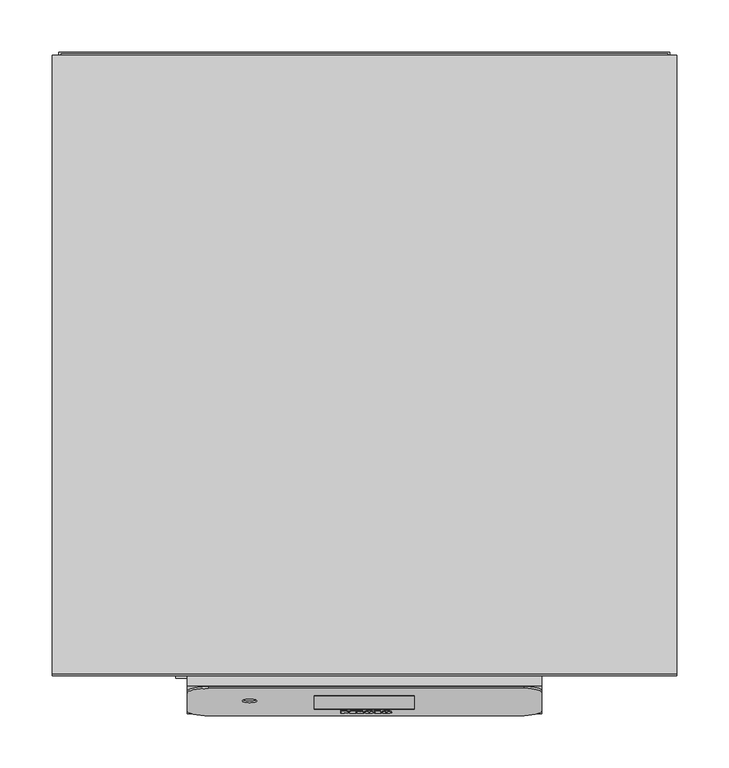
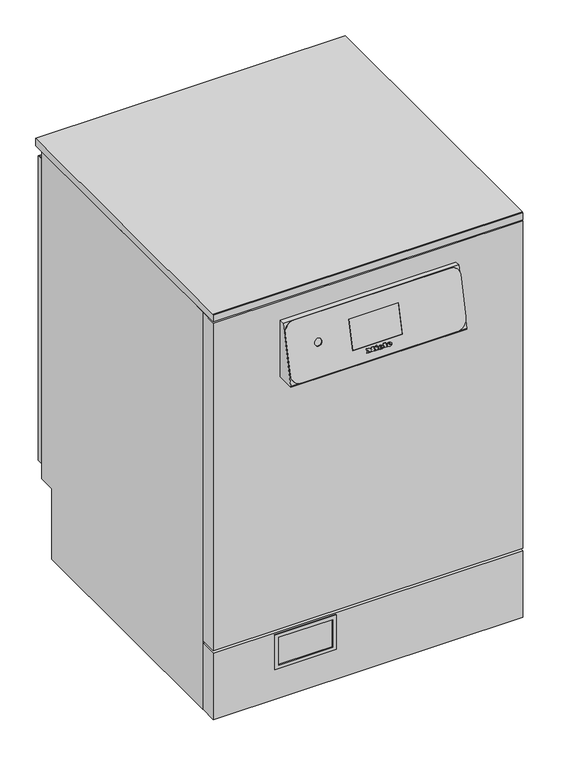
"""IFC4 building model written with IfcOpenShell, lengths in millimetres: proxy geometry, 12065810_NWE_PFD405DOS_LW : 61040582_NWE_12065810_PFD405DOS_LW."""

from ifc_helpers import new_model, si_unit, point, frame, frame_2d, origin, origin_with_axes, place, context, project, spatial, polyline, circle_curve, ellipse_curve, trimmed, segment, composite_curve, outline, extrude, faceted_brep, source, transform, mapped, element, save
from ifc_brep_helpers import plane_surface, cylinder_surface, revolved_surface, extruded_surface, advanced_brep


def specialty_equipment_d150170b(model_context):
    return source(origin(), model_context, "Body", "SolidModel", [
        advanced_brep(
        [(20.656, -35.3539089, 679.552071), (20.656, -35.1721485, 680.339362), (26.008, -35.1721485, 680.339362), (16.696, -35.1721485, 680.339362), (18.896, -35.7804161, 677.7046654), (25.872, -35.3539089, 679.552071), (23.456, -35.3539089, 679.552071), (21.552, -35.5554651, 678.6790354), (20.656, -34.9417986, 681.337117), (20.656, -34.7456413, 682.1867677), (22.024, -34.7456413, 682.1867677), (22.024, -34.9417986, 681.337117), (20.656, -34.3795388, 679.3271199), (21.552, -34.581095, 678.4540844), (23.456, -34.3795388, 679.3271199), (25.872, -34.3795388, 679.3271199), (18.896, -34.806046, 677.4797143), (16.696, -34.1977784, 680.114411), (26.008, -34.1977784, 680.114411), (20.656, -34.1977784, 680.114411), (20.656, -33.9674285, 681.1121659), (22.024, -33.9674285, 681.1121659), (22.024, -33.7712712, 681.9618166), (20.656, -33.7712712, 681.9618166)],
        [
            (0, 1),
            (1, 2),
            (2, 3, ellipse_curve(frame((21.352, -35.1721485, 680.339362), z_axis=(0.0, -0.9743700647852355, 0.22495105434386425), x_axis=(-1.0, 0.0, 0.0)), 4.656, 3.848)),
            (3, 4, circle_curve(frame((19.7920436, -35.1109618, 680.6043907), z_axis=(0.0, -0.9743700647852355, 0.22495105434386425), x_axis=(0.0, -0.22495105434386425, -0.9743700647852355)), 3.1079688)),
            (4, 5, circle_curve(frame((21.2587936, -34.6358651, 682.6622603), z_axis=(0.0, -0.9743700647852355, 0.22495105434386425), x_axis=(0.0, -0.22495105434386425, -0.9743700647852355)), 5.6098607)),
            (5, 6),
            (6, 7, circle_curve(frame((21.9430588, -35.1865453, 680.2770023), z_axis=(0.0, 0.9743700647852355, -0.22495105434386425), x_axis=(0.0, -0.22495105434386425, -0.9743700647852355)), 1.6859795)),
            (7, 0, circle_curve(frame((21.552, -35.3539089, 679.552071), z_axis=(0.0, 0.9743700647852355, -0.22495105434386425), x_axis=(0.0, -0.22495105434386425, -0.9743700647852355)), 0.896)),
            (8, 9),
            (9, 10, circle_curve(frame((21.34, -34.7456413, 682.1867677), z_axis=(0.0, 0.9743700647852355, -0.22495105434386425), x_axis=(0.0, -0.22495105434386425, -0.9743700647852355)), 0.684)),
            (10, 11),
            (11, 8),
            (12, 13, circle_curve(frame((21.552, -34.3795388, 679.3271199), z_axis=(0.0, -0.9743700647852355, 0.22495105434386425), x_axis=(0.0, -0.22495105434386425, -0.9743700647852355)), 0.896)),
            (13, 14, circle_curve(frame((21.9430588, -34.2121753, 680.0520513), z_axis=(0.0, -0.9743700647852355, 0.22495105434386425), x_axis=(0.0, -0.22495105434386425, -0.9743700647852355)), 1.6859795)),
            (14, 15),
            (15, 16, circle_curve(frame((21.2587936, -33.6614951, 682.4373092), z_axis=(0.0, 0.9743700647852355, -0.22495105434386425), x_axis=(0.0, -0.22495105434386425, -0.9743700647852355)), 5.6098607)),
            (16, 17, circle_curve(frame((19.7920436, -34.1365917, 680.3794396), z_axis=(0.0, 0.9743700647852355, -0.22495105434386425), x_axis=(0.0, -0.22495105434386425, -0.9743700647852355)), 3.1079688)),
            (17, 18, ellipse_curve(frame((21.352, -34.1977784, 680.114411), z_axis=(0.0, 0.9743700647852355, -0.22495105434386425), x_axis=(-1.0, 0.0, 0.0)), 4.656, 3.848)),
            (18, 19),
            (19, 12),
            (20, 21),
            (21, 22),
            (22, 23, circle_curve(frame((21.34, -33.7712712, 681.9618166), z_axis=(0.0, -0.9743700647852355, 0.22495105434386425), x_axis=(0.0, -0.22495105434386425, -0.9743700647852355)), 0.684)),
            (23, 20),
            (0, 12),
            (19, 1),
            (18, 2),
            (5, 15),
            (14, 6),
            (17, 3),
            (13, 7),
            (16, 4),
            (8, 20),
            (23, 9),
            (22, 10),
            (21, 11),
        ],
        [
            plane_surface(frame((20.656, -35.1721485, 680.339362), z_axis=(0.0, -0.9743700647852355, 0.22495105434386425), x_axis=(0.0, 0.22495105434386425, 0.9743700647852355))),
            plane_surface(frame((20.656, -34.1977784, 680.114411), z_axis=(0.0, 0.9743700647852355, -0.22495105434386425), x_axis=(0.0, -0.22495105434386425, -0.9743700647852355))),
            plane_surface(frame((20.656, -35.3539089, 679.552071), z_axis=(1.0, 0.0, 0.0), x_axis=(0.0, 0.9743700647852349, -0.22495105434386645))),
            plane_surface(frame((20.656, -35.1721485, 680.339362), z_axis=(0.0, -0.22495105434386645, -0.9743700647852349), x_axis=(0.0, 0.9743700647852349, -0.22495105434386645))),
            plane_surface(frame((25.872, -35.3539089, 679.552071), z_axis=(0.0, 0.22495105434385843, 0.9743700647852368), x_axis=(0.0, 0.9743700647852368, -0.22495105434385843))),
            extruded_surface(trimmed(ellipse_curve(frame((21.352, -33.2234083, 679.8894599), z_axis=(0.0, -0.9743700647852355, 0.22495105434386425), x_axis=(-1.0, 0.0, 0.0)), 4.656, 3.848), [point((26.008, -33.2234083, 679.8894599))], [point((16.696, -33.2234083, 679.8894599))], True, "CARTESIAN"), (0.0, -0.9743700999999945, 0.2249510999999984), 1.0000000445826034),
            revolved_surface(polyline([(21.9430588, -34.59143807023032, 678.4092833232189), (21.9430588, -35.56580822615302, 678.6342343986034)]), (21.9430588, -34.2121753, 680.0520513), (0.0, 0.9743700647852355, -0.22495105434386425)),
            revolved_surface(polyline([(21.552, -34.581094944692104, 678.4540843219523), (21.552, -35.5554651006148, 678.679035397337)]), (21.552, -34.3795388, 679.3271199), (0.0, 0.9743700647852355, -0.22495105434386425)),
            cylinder_surface(frame((19.7920436, -34.1365917, 680.3794396), z_axis=(0.0, -0.9743700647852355, 0.22495105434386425), x_axis=(0.0, -0.22495105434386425, -0.9743700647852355)), 3.1079688),
            cylinder_surface(frame((21.2587936, -33.6614951, 682.4373092), z_axis=(0.0, -0.9743700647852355, 0.22495105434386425), x_axis=(0.0, -0.22495105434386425, -0.9743700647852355)), 5.6098607),
            plane_surface(frame((20.656, -34.9417986, 681.337117), z_axis=(1.0, 0.0, 0.0), x_axis=(0.0, 0.9743700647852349, -0.22495105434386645))),
            revolved_surface(polyline([(21.34, -33.925137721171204, 681.2953474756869), (21.34, -34.8995078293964, 681.5202985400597)]), (21.34, -33.7712712, 681.9618166), (0.0, 0.9743700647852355, -0.22495105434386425)),
            plane_surface(frame((22.024, -34.7456413, 682.1867677), z_axis=(-1.0, 0.0, 0.0), x_axis=(0.0, 0.9743700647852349, -0.22495105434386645))),
            plane_surface(frame((22.024, -34.9417986, 681.337117), z_axis=(0.0, 0.22495105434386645, 0.9743700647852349), x_axis=(0.0, 0.9743700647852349, -0.22495105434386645))),
        ],
        [
            (0, [[1, 2, 3, 4, 5, 6, 7, 8], [9, 10, 11, 12]]),
            (1, [[13, 14, 15, 16, 17, 18, 19, 20], [21, 22, 23, 24]]),
            (2, [[-1, 25, -20, 26]]),
            (3, [[-2, -26, -19, 27]]),
            (4, [[-6, 28, -15, 29]]),
            (5, [[-3, -27, -18, 30]]),
            (6, [[-7, -29, -14, 31]]),
            (7, [[-8, -31, -13, -25]]),
            (8, [[-4, -30, -17, 32]]),
            (9, [[-5, -32, -16, -28]]),
            (10, [[-9, 33, -24, 34]]),
            (11, [[-10, -34, -23, 35]]),
            (12, [[-11, -35, -22, 36]]),
            (13, [[-12, -36, -21, -33]]),
        ],
    ),
        advanced_brep(
        [(3.96, -35.3539089, 679.552071), (3.96, -35.1721485, 680.339362), (9.312, -35.1721485, 680.339362), (0.0, -35.1721485, 680.339362), (2.2, -35.7804161, 677.7046654), (9.176, -35.3539089, 679.552071), (6.76, -35.3539089, 679.552071), (4.856, -35.5554651, 678.6790354), (3.96, -34.9417986, 681.337117), (3.96, -34.7456413, 682.1867677), (5.328, -34.7456413, 682.1867677), (5.328, -34.9417986, 681.337117), (3.96, -34.3795388, 679.3271199), (4.856, -34.581095, 678.4540844), (6.76, -34.3795388, 679.3271199), (9.176, -34.3795388, 679.3271199), (2.2, -34.806046, 677.4797143), (0.0, -34.1977784, 680.114411), (9.312, -34.1977784, 680.114411), (3.96, -34.1977784, 680.114411), (3.96, -33.9674285, 681.1121659), (5.328, -33.9674285, 681.1121659), (5.328, -33.7712712, 681.9618166), (3.96, -33.7712712, 681.9618166)],
        [
            (0, 1),
            (1, 2),
            (2, 3, ellipse_curve(frame((4.656, -35.1721485, 680.339362), z_axis=(0.0, -0.9743700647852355, 0.22495105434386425), x_axis=(-1.0, 0.0, 0.0)), 4.656, 3.848)),
            (3, 4, circle_curve(frame((3.0960436, -35.1109618, 680.6043907), z_axis=(0.0, -0.9743700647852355, 0.22495105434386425), x_axis=(0.0, -0.22495105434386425, -0.9743700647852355)), 3.1079688)),
            (4, 5, circle_curve(frame((4.5627936, -34.6358651, 682.6622603), z_axis=(0.0, -0.9743700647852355, 0.22495105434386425), x_axis=(0.0, -0.22495105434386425, -0.9743700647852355)), 5.6098607)),
            (5, 6),
            (6, 7, circle_curve(frame((5.2470588, -35.1865453, 680.2770023), z_axis=(0.0, 0.9743700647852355, -0.22495105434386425), x_axis=(0.0, -0.22495105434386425, -0.9743700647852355)), 1.6859795)),
            (7, 0, circle_curve(frame((4.856, -35.3539089, 679.552071), z_axis=(0.0, 0.9743700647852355, -0.22495105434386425), x_axis=(0.0, -0.22495105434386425, -0.9743700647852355)), 0.896)),
            (8, 9),
            (9, 10, circle_curve(frame((4.644, -34.7456413, 682.1867677), z_axis=(0.0, 0.9743700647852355, -0.22495105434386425), x_axis=(0.0, -0.22495105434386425, -0.9743700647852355)), 0.684)),
            (10, 11),
            (11, 8),
            (12, 13, circle_curve(frame((4.856, -34.3795388, 679.3271199), z_axis=(0.0, -0.9743700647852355, 0.22495105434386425), x_axis=(0.0, -0.22495105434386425, -0.9743700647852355)), 0.896)),
            (13, 14, circle_curve(frame((5.2470588, -34.2121753, 680.0520513), z_axis=(0.0, -0.9743700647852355, 0.22495105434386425), x_axis=(0.0, -0.22495105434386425, -0.9743700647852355)), 1.6859795)),
            (14, 15),
            (15, 16, circle_curve(frame((4.5627936, -33.6614951, 682.4373092), z_axis=(0.0, 0.9743700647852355, -0.22495105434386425), x_axis=(0.0, -0.22495105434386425, -0.9743700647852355)), 5.6098607)),
            (16, 17, circle_curve(frame((3.0960436, -34.1365917, 680.3794396), z_axis=(0.0, 0.9743700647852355, -0.22495105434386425), x_axis=(0.0, -0.22495105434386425, -0.9743700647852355)), 3.1079688)),
            (17, 18, ellipse_curve(frame((4.656, -34.1977784, 680.114411), z_axis=(0.0, 0.9743700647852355, -0.22495105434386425), x_axis=(-1.0, 0.0, 0.0)), 4.656, 3.848)),
            (18, 19),
            (19, 12),
            (20, 21),
            (21, 22),
            (22, 23, circle_curve(frame((4.644, -33.7712712, 681.9618166), z_axis=(0.0, -0.9743700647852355, 0.22495105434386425), x_axis=(0.0, -0.22495105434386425, -0.9743700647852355)), 0.684)),
            (23, 20),
            (0, 12),
            (19, 1),
            (18, 2),
            (5, 15),
            (14, 6),
            (17, 3),
            (13, 7),
            (16, 4),
            (8, 20),
            (23, 9),
            (22, 10),
            (21, 11),
        ],
        [
            plane_surface(frame((3.96, -35.1721485, 680.339362), z_axis=(0.0, -0.9743700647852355, 0.22495105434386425), x_axis=(0.0, 0.22495105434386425, 0.9743700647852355))),
            plane_surface(frame((3.96, -34.1977784, 680.114411), z_axis=(0.0, 0.9743700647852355, -0.22495105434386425), x_axis=(0.0, -0.22495105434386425, -0.9743700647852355))),
            plane_surface(frame((3.96, -35.3539089, 679.552071), z_axis=(1.0, 0.0, 0.0), x_axis=(0.0, 0.9743700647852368, -0.22495105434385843))),
            plane_surface(frame((3.96, -35.1721485, 680.339362), z_axis=(0.0, -0.22495105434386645, -0.9743700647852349), x_axis=(0.0, 0.9743700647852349, -0.22495105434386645))),
            plane_surface(frame((9.176, -35.3539089, 679.552071), z_axis=(0.0, 0.22495105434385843, 0.9743700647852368), x_axis=(0.0, 0.9743700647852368, -0.22495105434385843))),
            extruded_surface(trimmed(ellipse_curve(frame((4.656, -33.2234083, 679.8894599), z_axis=(0.0, -0.9743700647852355, 0.22495105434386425), x_axis=(-1.0, 0.0, 0.0)), 4.656, 3.848), [point((9.312, -33.2234083, 679.8894599))], [point((0.0, -33.2234083, 679.8894599))], True, "CARTESIAN"), (0.0, -0.9743700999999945, 0.2249510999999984), 1.0000000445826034),
            revolved_surface(polyline([(5.2470588, -34.59143807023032, 678.4092833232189), (5.2470588, -35.56580822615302, 678.6342343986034)]), (5.2470588, -34.2121753, 680.0520513), (0.0, 0.9743700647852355, -0.22495105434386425)),
            revolved_surface(polyline([(4.856, -34.581094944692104, 678.4540843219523), (4.856, -35.5554651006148, 678.679035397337)]), (4.856, -34.3795388, 679.3271199), (0.0, 0.9743700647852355, -0.22495105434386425)),
            cylinder_surface(frame((3.0960436, -34.1365917, 680.3794396), z_axis=(0.0, -0.9743700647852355, 0.22495105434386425), x_axis=(0.0, -0.22495105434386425, -0.9743700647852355)), 3.1079688),
            cylinder_surface(frame((4.5627936, -33.6614951, 682.4373092), z_axis=(0.0, -0.9743700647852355, 0.22495105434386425), x_axis=(0.0, -0.22495105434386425, -0.9743700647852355)), 5.6098607),
            plane_surface(frame((3.96, -34.9417986, 681.337117), z_axis=(1.0, 0.0, 0.0), x_axis=(0.0, 0.9743700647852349, -0.22495105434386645))),
            revolved_surface(polyline([(4.644, -33.925137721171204, 681.2953474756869), (4.644, -34.8995078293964, 681.5202985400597)]), (4.644, -33.7712712, 681.9618166), (0.0, 0.9743700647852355, -0.22495105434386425)),
            plane_surface(frame((5.328, -34.7456413, 682.1867677), z_axis=(-1.0, 0.0, 0.0), x_axis=(0.0, 0.9743700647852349, -0.22495105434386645))),
            plane_surface(frame((5.328, -34.9417986, 681.337117), z_axis=(0.0, 0.22495105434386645, 0.9743700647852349), x_axis=(0.0, 0.9743700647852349, -0.22495105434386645))),
        ],
        [
            (0, [[1, 2, 3, 4, 5, 6, 7, 8], [9, 10, 11, 12]]),
            (1, [[13, 14, 15, 16, 17, 18, 19, 20], [21, 22, 23, 24]]),
            (2, [[-1, 25, -20, 26]]),
            (3, [[-2, -26, -19, 27]]),
            (4, [[-6, 28, -15, 29]]),
            (5, [[-3, -27, -18, 30]]),
            (6, [[-7, -29, -14, 31]]),
            (7, [[-8, -31, -13, -25]]),
            (8, [[-4, -30, -17, 32]]),
            (9, [[-5, -32, -16, -28]]),
            (10, [[-9, 33, -24, 34]]),
            (11, [[-10, -34, -23, 35]]),
            (12, [[-11, -35, -22, 36]]),
            (13, [[-12, -36, -21, -33]]),
        ],
    ),
        extrude(outline(polyline([(0.0, 0.0), (-0.0109087, -2.9993294), (-1.4390415, -2.9920868), (-1.4315307, 0.0), (0.0, 0.0)])), frame((-4.784, -33.1126145, 684.8147722), z_axis=(0.0, -0.9743700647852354, 0.22495105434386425), x_axis=(-0.42472021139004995, 0.20365373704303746, 0.8821212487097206)), (0.0, 0.0, 1.0), 1.0),
        extrude(outline(polyline([(-0.4933908, 2.4141097), (-2.7800844, -2.4601583), (-7.0459742, -0.4588767), (-7.4401146, -1.2990179), (-8.6568709, -0.728194), (-5.9760369, 4.9862153), (-4.7592806, 4.4153913), (-5.1636142, 3.5535222), (-2.1941494, 2.16044), (-1.7898157, 3.022309), (-0.4933908, 2.4141097)])), frame((-4.784, -33.1126145, 684.8147722), z_axis=(0.0, -0.9743700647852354, 0.22495105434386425), x_axis=(-0.42472021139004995, 0.20365373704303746, 0.8821212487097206)), (0.0, 0.0, 1.0), 1.0),
        extrude(outline(polyline([(0.0, 0.0), (0.0, -1.3039999), (-5.504, -1.3039999), (-5.504, 5.352), (-6.488, 5.352), (-6.488, 6.696), (0.0, 6.696), (0.0, 5.352), (-0.96, 5.352), (-0.96, 0.0), (0.0, 0.0)])), frame((9.76, -33.2997738, 684.0040963), z_axis=(0.0, -0.9743700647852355, 0.22495105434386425), x_axis=(-1.0, 0.0, 0.0)), (0.0, 0.0, 1.0), 1.0),
        extrude(outline(polyline([(0.0, 0.0), (0.0, -1.3039999), (-5.576, -1.3039999), (-7.92, 1.6960001), (-10.256, -1.3039999), (-15.128, -1.3039999), (-15.128, 0.0), (-14.112, 0.0), (-14.112, 5.352), (-15.128, 5.352), (-15.128, 6.696), (-8.744, 6.696), (-8.744, 5.352), (-9.728, 5.352), (-9.728, 1.8807777), (-6.136, 6.696), (-2.56, 1.9488752), (-2.56, 5.352), (-3.52, 5.352), (-3.52, 6.696), (0.0, 6.696), (0.0, 5.352), (-0.968, 5.352), (-0.968, 0.0), (0.0, 0.0)])), frame((-22.704, -33.2997738, 684.0040963), z_axis=(0.0, -0.9743700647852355, 0.22495105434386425), x_axis=(-1.0, 0.0, 0.0)), (0.0, 0.0, 1.0), 1.0),
        extrude(outline(polyline([(1.7745866, 832.3), (594.2, 832.3), (594.2, 817.0), (0.2, 817.0), (0.2, 830.7254134), (1.7745866, 832.3)])), frame((-299.0, 0.0, 0.0), z_axis=(1.0, 0.0, 0.0), x_axis=(0.0, 1.0, 0.0)), (0.0, 0.0, 1.0), 598.0),
        extrude(outline(polyline([(-0.1038681, 775.5857792), (-0.1038681, 660.0), (-36.1981904, 660.0), (-36.1981904, 662.5588517), (-10.1038681, 775.5857792), (-0.1038681, 775.5857792)])), frame((-169.8831565, 0.0, 0.0), z_axis=(1.0, 0.0, 0.0), x_axis=(0.0, 1.0, 0.0)), (0.0, 0.0, 1.0), 339.766313),
        extrude(outline(polyline([(137.0, -180.8556958), (66.1019991, -180.8556958), (66.1019991, -62.1493684), (137.0, -62.1493684), (137.0, -180.8556958)]), holes=[polyline([(129.5988213, -69.1491757), (73.0575068, -69.1491757), (73.0575068, -173.1990884), (129.5988213, -173.1990884), (129.5988213, -69.1491757)])]), frame((0.0, -2.0, 0.0), z_axis=(0.0, 1.0, 0.0), x_axis=(0.0, 0.0, 1.0)), (0.0, 0.0, 1.0), 2.0),
        extrude(outline(polyline([(299.0, 34.0), (299.0, 0.0), (-299.0, 0.0), (-299.0, 34.0), (299.0, 34.0)])), frame((0.0, 0.0, 4.5), z_axis=(0.0, 0.0, 1.0), x_axis=(1.0, 0.0, 0.0)), (0.0, 0.0, 1.0), 135.5),
        extrude(outline(polyline([(299.0, 34.0), (299.0, 0.0), (-299.0, 0.0), (-299.0, 34.0), (299.0, 34.0)])), frame((0.0, 0.0, 145.0), z_axis=(0.0, 0.0, 1.0), x_axis=(1.0, 0.0, 0.0)), (0.0, 0.0, 1.0), 670.0),
        advanced_brep(
        [(153.3281651, -12.0526082, 776.0356813), (-148.8831565, -12.0526082, 776.0356813), (-169.8831565, -16.7765804, 755.57391), (-169.8831565, -33.4229584, 683.4705252), (-148.8831565, -38.1469305, 663.0087538), (148.8831565, -38.1469305, 663.0087538), (169.8831565, -33.4229584, 683.4705252), (169.8831565, -15.776671, 759.9049933), (48.0, -18.9868916, 746.0), (48.0, -31.9155103, 690.0), (-48.0, -31.9155103, 690.0), (-48.0, -18.9868916, 746.0), (-102.8831565, -24.0088923, 724.2473253), (-116.8831565, -24.0088923, 724.2473253), (148.8831565, -36.1981904, 662.5588517), (169.8831565, -31.4742182, 683.0206231), (169.8831565, -13.8279308, 759.4550912), (153.3281651, -10.1038681, 775.5857792), (48.0, -16.9342834, 746.0), (48.0, -29.8629021, 690.0), (-48.0, -29.8629021, 690.0), (-48.0, -16.9342834, 746.0), (-148.8831565, -36.1981904, 662.5588517), (-169.8831565, -31.4742182, 683.0206231), (-169.8831565, -14.8278402, 755.1240079), (-148.8831565, -10.1038681, 775.5857792), (-116.8831565, -22.4281396, 723.8823798), (-102.8831565, -22.4281396, 723.8823798)],
        [
            (0, 1),
            (1, 2, circle_curve(frame((-148.8831565, -16.7765804, 755.57391), z_axis=(0.0, -0.9743700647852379, 0.22495105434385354), x_axis=(1.0, 0.0, 0.0)), 21.0)),
            (2, 3),
            (3, 4, circle_curve(frame((-148.8831565, -33.4229584, 683.4705252), z_axis=(0.0, -0.9743700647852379, 0.22495105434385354), x_axis=(1.0, 0.0, 0.0)), 21.0)),
            (4, 5),
            (5, 6, circle_curve(frame((148.8831565, -33.4229584, 683.4705252), z_axis=(0.0, -0.9743700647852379, 0.22495105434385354), x_axis=(1.0, 0.0, 0.0)), 21.0)),
            (6, 7),
            (7, 0, circle_curve(frame((153.3281651, -15.776671, 759.9049933), z_axis=(0.0, -0.9743700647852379, 0.22495105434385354), x_axis=(1.0, 0.0, 0.0)), 16.5549913)),
            (8, 9),
            (9, 10),
            (10, 11),
            (11, 8),
            (12, 13, circle_curve(frame((-109.8831565, -24.0088923, 724.2473253), z_axis=(0.0, 0.9743700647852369, -0.22495105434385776), x_axis=(1.0, 0.0, 0.0)), 7.0)),
            (13, 12, circle_curve(frame((-109.8831565, -24.0088923, 724.2473253), z_axis=(0.0, 0.9743700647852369, -0.22495105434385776), x_axis=(1.0, 0.0, 0.0)), 7.0)),
            (5, 14),
            (14, 15, circle_curve(frame((148.8831565, -31.4742182, 683.0206231), z_axis=(0.0, -0.9743700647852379, 0.22495105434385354), x_axis=(1.0, 0.0, 0.0)), 21.0)),
            (15, 6),
            (15, 16),
            (16, 7),
            (16, 17, circle_curve(frame((153.3281651, -13.8279308, 759.4550912), z_axis=(0.0, -0.9743700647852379, 0.22495105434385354), x_axis=(1.0, 0.0, 0.0)), 16.5549913)),
            (17, 0),
            (8, 18),
            (18, 19),
            (19, 9),
            (19, 20),
            (20, 10),
            (11, 21),
            (21, 18),
            (20, 21),
            (14, 22),
            (22, 23, circle_curve(frame((-148.8831565, -31.4742182, 683.0206231), z_axis=(0.0, 0.9743700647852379, -0.22495105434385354), x_axis=(1.0, 0.0, 0.0)), 21.0)),
            (23, 24),
            (24, 25, circle_curve(frame((-148.8831565, -14.8278402, 755.1240079), z_axis=(0.0, 0.9743700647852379, -0.22495105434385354), x_axis=(1.0, 0.0, 0.0)), 21.0)),
            (25, 17),
            (25, 1),
            (24, 2),
            (23, 3),
            (22, 4),
            (26, 27, circle_curve(frame((-109.8831565, -22.4281396, 723.8823798), z_axis=(0.0, -0.9743700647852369, 0.22495105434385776), x_axis=(1.0, 0.0, 0.0)), 7.0)),
            (27, 26, circle_curve(frame((-109.8831565, -22.4281396, 723.8823798), z_axis=(0.0, -0.9743700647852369, 0.22495105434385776), x_axis=(1.0, 0.0, 0.0)), 7.0)),
            (26, 13),
            (12, 27),
        ],
        [
            plane_surface(frame((-166.8819453, -12.0526082, 776.0356813), z_axis=(0.0, -0.9743700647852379, 0.22495105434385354), x_axis=(-1.0, 0.0, 0.0))),
            cylinder_surface(frame((148.8831565, -31.4742182, 683.0206231), z_axis=(0.0, -0.9743700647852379, 0.22495105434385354), x_axis=(1.0, 0.0, 0.0)), 21.0),
            plane_surface(frame((169.8831565, -33.4229584, 683.4705252), z_axis=(1.0000000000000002, 0.0, 0.0), x_axis=(0.0, 0.9743700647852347, -0.22495105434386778))),
            cylinder_surface(frame((153.3281651, -13.8279308, 759.4550912), z_axis=(0.0, -0.9743700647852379, 0.22495105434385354), x_axis=(1.0, 0.0, 0.0)), 16.5549913),
            plane_surface(frame((48.0, -31.9155103, 690.0), z_axis=(-1.0, 0.0, 0.0), x_axis=(0.0, 1.0, 0.0))),
            plane_surface(frame((48.0, -31.9155103, 690.0), z_axis=(0.0, 0.0, 1.0), x_axis=(-1.0, 0.0, 0.0))),
            plane_surface(frame((48.0, -16.9342834, 746.0), z_axis=(0.0, 0.0, -1.0), x_axis=(-1.0, 0.0, 0.0))),
            plane_surface(frame((-48.0, -31.9155103, 690.0), z_axis=(1.0, 0.0, 0.0), x_axis=(0.0, -1.0, 0.0))),
            plane_surface(frame((-166.8819453, -10.1038681, 775.5857792), z_axis=(0.0, 0.9743700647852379, -0.22495105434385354), x_axis=(1.0, 0.0, 0.0))),
            plane_surface(frame((153.3281651, -12.0526082, 776.0356813), z_axis=(0.0, 0.22495105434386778, 0.9743700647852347), x_axis=(0.0, 0.9743700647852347, -0.22495105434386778))),
            cylinder_surface(frame((-148.8831565, -14.8278402, 755.1240079), z_axis=(0.0, -0.9743700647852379, 0.22495105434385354), x_axis=(1.0, 0.0, 0.0)), 21.0),
            plane_surface(frame((-169.8831565, -16.7765804, 755.57391), z_axis=(-1.0, 0.0, 0.0), x_axis=(0.0, 0.9743700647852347, -0.22495105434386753))),
            cylinder_surface(frame((-148.8831565, -31.4742182, 683.0206231), z_axis=(0.0, -0.9743700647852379, 0.22495105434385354), x_axis=(1.0, 0.0, 0.0)), 21.0),
            plane_surface(frame((-148.8831565, -38.1469305, 663.0087538), z_axis=(0.0, -0.22495105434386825, -0.9743700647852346), x_axis=(0.0, 0.9743700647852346, -0.22495105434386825))),
            plane_surface(frame((-102.8831565, -22.4281396, 723.8823798), z_axis=(0.0, -0.9743700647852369, 0.2249510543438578), x_axis=(0.0, -0.2249510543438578, -0.9743700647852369))),
            revolved_surface(polyline([(-102.8831565, -24.008892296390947, 724.2473253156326), (-102.8831565, -22.4281396, 723.8823798)]), (-109.8831565, -22.4281396, 723.8823798), (0.0, -0.9743700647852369, 0.22495105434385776)),
        ],
        [
            (0, [[1, 2, 3, 4, 5, 6, 7, 8], [9, 10, 11, 12], [13, 14]]),
            (1, [[-6, 15, 16, 17]]),
            (2, [[-7, -17, 18, 19]]),
            (3, [[-8, -19, 20, 21]]),
            (4, [[22, 23, 24, -9]]),
            (5, [[-24, 25, 26, -10]]),
            (6, [[-22, -12, 27, 28]]),
            (7, [[-26, 29, -27, -11]]),
            (8, [[-20, -18, -16, 30, 31, 32, 33, 34], [-23, -28, -29, -25]]),
            (9, [[-1, -21, -34, 35]]),
            (10, [[-2, -35, -33, 36]]),
            (11, [[-3, -36, -32, 37]]),
            (12, [[-4, -37, -31, 38]]),
            (13, [[-5, -38, -30, -15]]),
            (14, [[39, 40]]),
            (15, [[-39, 41, -13, 42]]),
            (15, [[-40, -42, -14, -41]]),
        ],
    ),
        extrude(outline(polyline([(-29.8629021, 690.0), (-31.9155103, 690.0), (-18.9868916, 746.0), (-16.9342834, 746.0), (-29.8629021, 690.0)])), frame((-48.0, 0.0, 0.0), z_axis=(1.0, 0.0, 0.0), x_axis=(0.0, 1.0, 0.0)), (0.0, 0.0, 1.0), 96.0),
        extrude(outline(polyline([(35.0, 817.0), (575.0, 817.0), (575.0, 148.0), (541.0, 148.0), (541.0, 4.2000122), (35.0, 4.2000122), (35.0, 817.0)])), frame((-299.0, 0.0, 0.0), z_axis=(1.0, 0.0, 0.0), x_axis=(0.0, 1.0, 0.0)), (0.0, 0.0, 1.0), 598.0),
        extrude(outline(polyline([(-172.0947306, 541.0), (-252.9150967, 541.0), (-252.9150967, 546.8796322), (-172.0947306, 546.8796322), (-172.0947306, 541.0)])), frame((0.0, 0.0, 83.2113443), z_axis=(0.0, 0.0, 1.0), x_axis=(1.0, 0.0, 0.0)), (0.0, 0.0, 1.0), 9.5402229),
        extrude(outline(polyline([(-172.0947306, 541.0), (-252.9150967, 541.0), (-252.9150967, 546.8796322), (-172.0947306, 546.8796322), (-172.0947306, 541.0)])), frame((0.0, 0.0, 67.2113431), z_axis=(0.0, 0.0, 1.0), x_axis=(1.0, 0.0, 0.0)), (0.0, 0.0, 1.0), 9.5826234),
        extrude(outline(polyline([(-172.0947306, 541.0), (-252.9150967, 541.0), (-252.9150967, 546.8796322), (-172.0947306, 546.8796322), (-172.0947306, 541.0)])), frame((0.0, 0.0, 49.1113767), z_axis=(0.0, 0.0, 1.0), x_axis=(1.0, 0.0, 0.0)), (0.0, 0.0, 1.0), 11.5700235),
        faceted_brep([(292.4999939, 597.3069992, 792.0057337), (-292.5000061, 597.3069992, 792.0057337), (-292.5000061, 575.0, 792.0057337), (-291.0000061, 575.0, 792.0057337), (-291.0000061, 596.3069992, 792.0057337), (290.9999949, 596.3069992, 792.0057337), (290.9999949, 575.0, 792.0057337), (292.4999939, 575.0, 792.0057337), (292.4999939, 597.3069992, 170.291519), (292.4999939, 575.0, 170.291519), (290.9999949, 575.0, 170.291519), (290.9999949, 596.3069992, 170.291519), (-291.0000061, 596.3069992, 170.291519), (-291.0000061, 575.0, 170.291519), (-292.5000061, 575.0, 170.291519), (-292.5000061, 597.3069992, 170.291519), (-200.000102, 597.3069992, 319.6113699), (-200.000102, 597.3069992, 244.365213), (-125.000102, 597.3069992, 244.365213), (-125.000102, 597.3069992, 319.6113699), (-200.000102, 596.3069992, 244.365213), (-200.000102, 596.3069992, 319.6113699), (-125.000102, 596.3069992, 319.6113699), (-125.000102, 596.3069992, 244.365213)], [[[0, 1, 2, 3, 4, 5, 6, 7]], [[8, 9, 10, 11, 12, 13, 14, 15]], [[1, 0, 8, 15], [16, 17, 18, 19]], [[2, 1, 15, 14]], [[3, 2, 14, 13]], [[4, 3, 13, 12]], [[5, 4, 12, 11], [20, 21, 22, 23]], [[6, 5, 11, 10]], [[7, 6, 10, 9]], [[0, 7, 9, 8]], [[20, 17, 16, 21]], [[17, 20, 23, 18]], [[18, 23, 22, 19]], [[21, 16, 19, 22]]]),
        extrude(outline(polyline([(70.6242327, 186.565003), (80.6698637, 186.565003), (80.6698637, 179.3447057), (79.4141598, 179.3447057), (79.4141598, 185.3092991), (76.4318631, 185.3092991), (76.4318631, 179.6586317), (75.1761592, 179.6586317), (75.1761592, 185.3092991), (71.8799366, 185.3092991), (71.8799366, 179.1877427), (70.6242327, 179.1877427), (70.6242327, 186.565003)])), frame((0.0, 571.0, 0.0), z_axis=(0.0, 1.0, 0.0), x_axis=(0.0, 0.0, 1.0)), (0.0, 0.0, 1.0), 1.0),
        extrude(outline(polyline([(70.6242327, 177.3041869), (80.6698637, 177.3041869), (80.6698637, 176.048483), (71.8799366, 176.048483), (71.8799366, 171.0256675), (70.6242327, 171.0256675), (70.6242327, 177.3041869)])), frame((0.0, 571.0, 0.0), z_axis=(0.0, 1.0, 0.0), x_axis=(0.0, 0.0, 1.0)), (0.0, 0.0, 1.0), 1.0),
        extrude(outline(polyline([(46.0, 96.7862239), (56.045631, 92.7763102), (56.045631, 91.7069998), (46.0, 87.6970861), (46.0, 89.0239138), (49.1392597, 90.1741582), (49.1392597, 94.3116044), (46.0, 95.4593962), (46.0, 96.7862239)]), holes=[polyline([(50.3949636, 93.8505256), (50.3949636, 90.6327844), (52.864678, 91.5377741), (54.7899271, 92.241655), (53.0805021, 92.8670544), (50.3949636, 93.8505256)])]), frame((0.0, 571.0, 0.0), z_axis=(0.0, 1.0, 0.0), x_axis=(0.0, 0.0, 1.0)), (0.0, 0.0, 1.0), 1.0),
        extrude(outline(polyline([(46.0, 84.5578264), (56.045631, 87.297321), (56.045631, 86.0023764), (49.4433755, 84.4131261), (47.4053092, 83.9226168), (49.207931, 83.3977718), (56.045631, 81.406304), (56.045631, 79.539916), (51.0890343, 78.0929135), (47.4053092, 77.0162455), (49.3845144, 76.5404514), (56.045631, 74.936486), (56.045631, 73.6415413), (46.0, 76.3834885), (46.0, 77.7250315), (53.7500474, 80.1334323), (54.8316204, 80.4694312), (53.5293182, 80.8471233), (46.0, 83.0421526), (46.0, 84.5578264)])), frame((0.0, 571.0, 0.0), z_axis=(0.0, 1.0, 0.0), x_axis=(0.0, 0.0, 1.0)), (0.0, 0.0, 1.0), 1.0),
        extrude(outline(composite_curve([segment(trimmed(circle_curve(frame_2d((51.0, 85.0998392)), 8.0), [point((51.0, 77.0998392))], [point((51.0, 93.0998392))], False, "CARTESIAN"), True, "CONTINUOUS"), segment(trimmed(circle_curve(frame_2d((51.0, 85.0998392)), 8.0), [point((51.0, 93.0998392))], [point((51.0, 77.0998392))], False, "CARTESIAN"), True, "CONTINUOUS")], self_intersect=False)), frame((0.0, 541.0, 0.0), z_axis=(0.0, 1.0, 0.0), x_axis=(0.0, 0.0, 1.0)), (0.0, 0.0, 1.0), 30.0),
        extrude(outline(polyline([(94.6239875, 133.557834), (104.6696185, 136.2973286), (104.6696185, 135.002384), (98.067363, 133.4131338), (96.0292967, 132.9226244), (97.8319185, 132.3977795), (104.6696185, 130.4063116), (104.6696185, 128.5399236), (99.7130218, 127.0929211), (96.0292967, 126.0162531), (98.0085019, 125.5404591), (104.6696185, 123.9364936), (104.6696185, 122.641549), (94.6239875, 125.3834961), (94.6239875, 126.7250391), (102.3740349, 129.1334399), (103.4556079, 129.4694388), (102.1533057, 129.847131), (94.6239875, 132.0421602), (94.6239875, 133.557834)])), frame((0.0, 571.0, 0.0), z_axis=(0.0, 1.0, 0.0), x_axis=(0.0, 0.0, 1.0)), (0.0, 0.0, 1.0), 1.0),
        extrude(outline(polyline([(94.6239875, 144.6163668), (104.6696185, 144.6163668), (104.6696185, 143.3606629), (99.7522625, 143.3606629), (104.6696185, 138.210315), (104.6696185, 136.4542916), (100.53953, 140.7781313), (94.6239875, 136.2973286), (94.6239875, 137.8326228), (99.6909489, 141.6684057), (98.0771732, 143.3606629), (94.6239875, 143.3606629), (94.6239875, 144.6163668)])), frame((0.0, 571.0, 0.0), z_axis=(0.0, 1.0, 0.0), x_axis=(0.0, 0.0, 1.0)), (0.0, 0.0, 1.0), 1.0),
        extrude(outline(polyline([(118.1398187, 18.2077062), (128.1854497, 18.2077062), (128.1854497, 14.7422578), (128.0407495, 12.9494462), (127.3221533, 11.4730132), (125.6053707, 10.283528), (123.2165903, 9.888668), (121.1895605, 10.1559956), (119.7266164, 10.8427087), (118.8154953, 11.7599611), (118.311497, 12.9604827), (118.1398187, 14.5754846), (118.1398187, 18.2077062)]), holes=[polyline([(119.3955226, 16.9520023), (119.3955226, 14.7299951), (119.5770111, 13.1137669), (120.0895933, 12.1817991), (121.3367133, 11.4178309), (123.2362106, 11.1443719), (125.6151809, 11.6802533), (126.728637, 12.9837819), (126.9297459, 14.7643307), (126.9297459, 16.9520023), (119.3955226, 16.9520023)])]), frame((0.0, 571.0, 0.0), z_axis=(0.0, 1.0, 0.0), x_axis=(0.0, 0.0, 1.0)), (0.0, 0.0, 1.0), 1.0),
        extrude(outline(polyline([(121.5930044, 8.6329642), (121.5930044, 7.3772603), (120.3360742, 6.9725901), (119.5414491, 5.9842138), (119.2385596, 4.4783502), (119.4678727, 3.1662377), (120.0981772, 2.3188828), (120.940627, 2.0405188), (121.7242156, 2.2489853), (122.2944327, 3.1024715), (122.7739056, 4.930845), (123.3931736, 6.8990137), (124.3275939, 7.9670977), (125.5759401, 8.3190382), (126.9971909, 7.8837112), (128.0002825, 6.6120657), (128.3424127, 4.7505828), (127.9843409, 2.7640201), (126.9321984, 1.4396449), (125.360116, 0.9417779), (125.360116, 2.1974818), (126.6501555, 2.9087203), (127.0867088, 4.7015319), (126.6550606, 6.4992486), (125.6127283, 7.0633343), (124.7420743, 6.6635692), (124.0406459, 4.6132402), (123.4103414, 2.391233), (122.3925346, 1.1759961), (120.9725101, 0.7848149), (119.4703253, 1.2348572), (118.3740369, 2.5298019), (117.9828557, 4.4292992), (118.4046938, 6.6721531), (119.6751129, 8.0909513), (121.5930044, 8.6329642)])), frame((0.0, 571.0, 0.0), z_axis=(0.0, 1.0, 0.0), x_axis=(0.0, 0.0, 1.0)), (0.0, 0.0, 1.0), 1.0),
        extrude(outline(composite_curve([segment(trimmed(circle_curve(frame_2d((126.8499756, 10.1811127)), 2.9851521), [point((126.8499756, 7.1959606))], [point((126.8499756, 13.1662647))], False, "CARTESIAN"), True, "CONTINUOUS"), segment(trimmed(circle_curve(frame_2d((126.8499756, 10.1811127)), 2.9851521), [point((126.8499756, 13.1662647))], [point((126.8499756, 7.1959606))], False, "CARTESIAN"), True, "CONTINUOUS")], self_intersect=False)), frame((0.0, 541.0, 0.0), z_axis=(0.0, 1.0, 0.0), x_axis=(0.0, 0.0, 1.0)), (0.0, 0.0, 1.0), 30.0),
        extrude(outline(composite_curve([segment(trimmed(circle_curve(frame_2d((117.0999756, 10.1811127)), 3.0), [point((117.0999756, 7.1811127))], [point((117.0999756, 13.1811127))], False, "CARTESIAN"), True, "CONTINUOUS"), segment(trimmed(circle_curve(frame_2d((117.0999756, 10.1811127)), 3.0), [point((117.0999756, 13.1811127))], [point((117.0999756, 7.1811127))], False, "CARTESIAN"), True, "CONTINUOUS")], self_intersect=False)), frame((0.0, 541.0, 0.0), z_axis=(0.0, 1.0, 0.0), x_axis=(0.0, 0.0, 1.0)), (0.0, 0.0, 1.0), 30.0),
        extrude(outline(composite_curve([segment(trimmed(circle_curve(frame_2d((107.3499443, 10.1811127)), 3.0), [point((107.3499443, 7.1811127))], [point((107.3499443, 13.1811127))], False, "CARTESIAN"), True, "CONTINUOUS"), segment(trimmed(circle_curve(frame_2d((107.3499443, 10.1811127)), 3.0), [point((107.3499443, 13.1811127))], [point((107.3499443, 7.1811127))], False, "CARTESIAN"), True, "CONTINUOUS")], self_intersect=False)), frame((0.0, 541.0, 0.0), z_axis=(0.0, 1.0, 0.0), x_axis=(0.0, 0.0, 1.0)), (0.0, 0.0, 1.0), 30.0),
        extrude(outline(composite_curve([segment(trimmed(circle_curve(frame_2d((136.5999756, 10.1811127)), 3.0), [point((136.5999756, 7.1811127))], [point((136.5999756, 13.1811127))], False, "CARTESIAN"), True, "CONTINUOUS"), segment(trimmed(circle_curve(frame_2d((136.5999756, 10.1811127)), 3.0), [point((136.5999756, 13.1811127))], [point((136.5999756, 7.1811127))], False, "CARTESIAN"), True, "CONTINUOUS")], self_intersect=False)), frame((0.0, 541.0, 0.0), z_axis=(0.0, 1.0, 0.0), x_axis=(0.0, 0.0, 1.0)), (0.0, 0.0, 1.0), 30.0),
        extrude(outline(polyline([(99.6239875, 19.6811122), (148.0, 19.6811122), (148.0, 1.1811127), (99.6239875, 1.1811127), (99.6239875, 19.6811122)]), holes=[polyline([(100.6239875, 18.6811122), (100.6239875, 2.1811127), (147.0, 2.1811127), (147.0, 18.6811122), (100.6239875, 18.6811122)])]), frame((0.0, 541.0, 0.0), z_axis=(0.0, 1.0, 0.0), x_axis=(0.0, 0.0, 1.0)), (0.0, 0.0, 1.0), 1.0),
        extrude(outline(polyline([(41.5900269, 145.1730949), (51.6356579, 147.9125895), (51.6356579, 146.6176449), (45.0334023, 145.0283946), (42.9953361, 144.5378853), (44.7979579, 144.0130403), (51.6356579, 142.0215725), (51.6356579, 140.1551845), (46.6790611, 138.708182), (42.9953361, 137.631514), (44.9745412, 137.1557199), (51.6356579, 135.5517544), (51.6356579, 134.2568098), (41.5900269, 136.998757), (41.5900269, 138.3403), (49.3400742, 140.7487008), (50.4216473, 141.0846996), (49.119345, 141.4623918), (41.5900269, 143.6574211), (41.5900269, 145.1730949)])), frame((0.0, 571.0, 0.0), z_axis=(0.0, 1.0, 0.0), x_axis=(0.0, 0.0, 1.0)), (0.0, 0.0, 1.0), 1.0),
        extrude(outline(polyline([(41.5900269, 131.2033893), (51.6356579, 133.9428838), (51.6356579, 132.6479392), (45.0334023, 131.058689), (42.9953361, 130.5681797), (44.7979579, 130.0433347), (51.6356579, 128.0518668), (51.6356579, 126.1854788), (46.6790611, 124.7384763), (42.9953361, 123.6618084), (44.9745412, 123.1860143), (51.6356579, 121.5820488), (51.6356579, 120.2871042), (41.5900269, 123.0290513), (41.5900269, 124.3705943), (49.3400742, 126.7789951), (50.4216473, 127.114994), (49.119345, 127.4926862), (41.5900269, 129.6877154), (41.5900269, 131.2033893)])), frame((0.0, 571.0, 0.0), z_axis=(0.0, 1.0, 0.0), x_axis=(0.0, 0.0, 1.0)), (0.0, 0.0, 1.0), 1.0),
        extrude(outline(composite_curve([segment(trimmed(circle_curve(frame_2d((46.5900269, 134.0998468)), 8.0), [point((46.5900269, 126.0998468))], [point((46.5900269, 142.0998468))], False, "CARTESIAN"), True, "CONTINUOUS"), segment(trimmed(circle_curve(frame_2d((46.5900269, 134.0998468)), 8.0), [point((46.5900269, 142.0998468))], [point((46.5900269, 126.0998468))], False, "CARTESIAN"), True, "CONTINUOUS")], self_intersect=False)), frame((0.0, 541.0, 0.0), z_axis=(0.0, 1.0, 0.0), x_axis=(0.0, 0.0, 1.0)), (0.0, 0.0, 1.0), 30.0),
        extrude(outline(polyline([(118.1398187, -7.1235653), (128.1854497, -7.1235653), (128.1854497, -10.5890137), (128.0407495, -12.3818253), (127.3221533, -13.8582584), (125.6053707, -15.0477435), (123.2165903, -15.4426035), (121.1895605, -15.1752759), (119.7266164, -14.4885629), (118.8154953, -13.5713104), (118.311497, -12.3707889), (118.1398187, -10.7557869), (118.1398187, -7.1235653)]), holes=[polyline([(119.3955226, -8.3792692), (119.3955226, -10.6012765), (119.5770111, -12.2175047), (120.0895933, -13.1494724), (121.3367133, -13.9134407), (123.2362106, -14.1868996), (125.6151809, -13.6510182), (126.728637, -12.3474897), (126.9297459, -10.5669408), (126.9297459, -8.3792692), (119.3955226, -8.3792692)])]), frame((0.0, 571.0, 0.0), z_axis=(0.0, 1.0, 0.0), x_axis=(0.0, 0.0, 1.0)), (0.0, 0.0, 1.0), 1.0),
        extrude(outline(polyline([(121.5930044, -16.6983074), (121.5930044, -17.9540113), (120.3360742, -18.3586815), (119.5414491, -19.3470578), (119.2385596, -20.8529214), (119.4678727, -22.1650338), (120.0981772, -23.0123887), (120.940627, -23.2907528), (121.7242156, -23.0822863), (122.2944327, -22.2288001), (122.7739056, -20.4004265), (123.3931736, -18.4322579), (124.3275939, -17.3641738), (125.5759401, -17.0122334), (126.9971909, -17.4475604), (128.0002825, -18.7192058), (128.3424127, -20.5806887), (127.9843409, -22.5672515), (126.9321984, -23.8916267), (125.360116, -24.3894936), (125.360116, -23.1337898), (126.6501555, -22.4225512), (127.0867088, -20.6297397), (126.6550606, -18.832023), (125.6127283, -18.2679372), (124.7420743, -18.6677023), (124.0406459, -20.7180313), (123.4103414, -22.9400386), (122.3925346, -24.1552754), (120.9725101, -24.5464566), (119.4703253, -24.0964143), (118.3740369, -22.8014697), (117.9828557, -20.9019723), (118.4046938, -18.6591184), (119.6751129, -17.2403202), (121.5930044, -16.6983074)])), frame((0.0, 571.0, 0.0), z_axis=(0.0, 1.0, 0.0), x_axis=(0.0, 0.0, 1.0)), (0.0, 0.0, 1.0), 1.0),
        extrude(outline(composite_curve([segment(trimmed(circle_curve(frame_2d((126.8499756, -15.1501589)), 2.9851521), [point((126.8499756, -18.135311))], [point((126.8499756, -12.1650068))], False, "CARTESIAN"), True, "CONTINUOUS"), segment(trimmed(circle_curve(frame_2d((126.8499756, -15.1501589)), 2.9851521), [point((126.8499756, -12.1650068))], [point((126.8499756, -18.135311))], False, "CARTESIAN"), True, "CONTINUOUS")], self_intersect=False)), frame((0.0, 541.0, 0.0), z_axis=(0.0, 1.0, 0.0), x_axis=(0.0, 0.0, 1.0)), (0.0, 0.0, 1.0), 30.0),
        extrude(outline(composite_curve([segment(trimmed(circle_curve(frame_2d((117.0999756, -15.1501589)), 3.0), [point((117.0999756, -18.1501589))], [point((117.0999756, -12.1501589))], False, "CARTESIAN"), True, "CONTINUOUS"), segment(trimmed(circle_curve(frame_2d((117.0999756, -15.1501589)), 3.0), [point((117.0999756, -12.1501589))], [point((117.0999756, -18.1501589))], False, "CARTESIAN"), True, "CONTINUOUS")], self_intersect=False)), frame((0.0, 541.0, 0.0), z_axis=(0.0, 1.0, 0.0), x_axis=(0.0, 0.0, 1.0)), (0.0, 0.0, 1.0), 30.0),
        extrude(outline(composite_curve([segment(trimmed(circle_curve(frame_2d((107.3499443, -15.1501589)), 3.0), [point((107.3499443, -18.1501589))], [point((107.3499443, -12.1501589))], False, "CARTESIAN"), True, "CONTINUOUS"), segment(trimmed(circle_curve(frame_2d((107.3499443, -15.1501589)), 3.0), [point((107.3499443, -12.1501589))], [point((107.3499443, -18.1501589))], False, "CARTESIAN"), True, "CONTINUOUS")], self_intersect=False)), frame((0.0, 541.0, 0.0), z_axis=(0.0, 1.0, 0.0), x_axis=(0.0, 0.0, 1.0)), (0.0, 0.0, 1.0), 30.0),
        extrude(outline(composite_curve([segment(trimmed(circle_curve(frame_2d((136.5999756, -15.1501589)), 3.0), [point((136.5999756, -18.1501589))], [point((136.5999756, -12.1501589))], False, "CARTESIAN"), True, "CONTINUOUS"), segment(trimmed(circle_curve(frame_2d((136.5999756, -15.1501589)), 3.0), [point((136.5999756, -12.1501589))], [point((136.5999756, -18.1501589))], False, "CARTESIAN"), True, "CONTINUOUS")], self_intersect=False)), frame((0.0, 541.0, 0.0), z_axis=(0.0, 1.0, 0.0), x_axis=(0.0, 0.0, 1.0)), (0.0, 0.0, 1.0), 30.0),
        extrude(outline(polyline([(99.6239875, -5.6501594), (148.0, -5.6501594), (148.0, -24.1501589), (99.6239875, -24.1501589), (99.6239875, -5.6501594)]), holes=[polyline([(100.6239875, -6.6501594), (100.6239875, -23.1501589), (147.0, -23.1501589), (147.0, -6.6501594), (100.6239875, -6.6501594)])]), frame((0.0, 541.0, 0.0), z_axis=(0.0, 1.0, 0.0), x_axis=(0.0, 0.0, 1.0)), (0.0, 0.0, 1.0), 1.0),
        extrude(outline(polyline([(294.0108337, -153.1353281), (304.0564648, -153.1353281), (304.0564648, -156.6007765), (303.9117645, -158.3935881), (303.1931683, -159.8700212), (301.4763857, -161.0595063), (299.0876053, -161.4543663), (297.0605755, -161.1870387), (295.5976314, -160.5003256), (294.6865103, -159.5830732), (294.182512, -158.3825516), (294.0108337, -156.7675497), (294.0108337, -153.1353281)]), holes=[polyline([(295.2665376, -154.391032), (295.2665376, -156.6130392), (295.4480261, -158.2292675), (295.9606083, -159.1612352), (297.2077283, -159.9252035), (299.1072256, -160.1986624), (301.4861959, -159.662781), (302.5996521, -158.3592524), (302.8007609, -156.5787036), (302.8007609, -154.391032), (295.2665376, -154.391032)])]), frame((0.0, 585.0, 0.0), z_axis=(0.0, 1.0, 0.0), x_axis=(0.0, 0.0, 1.0)), (0.0, 0.0, 1.0), 1.0),
        extrude(outline(polyline([(297.4640194, -162.7100702), (297.4640194, -163.965774), (296.2070893, -164.3704442), (295.4124641, -165.3588205), (295.1095746, -166.8646842), (295.3388877, -168.1767966), (295.9691922, -169.0241515), (296.811642, -169.3025155), (297.5952306, -169.094049), (298.1654477, -168.2405628), (298.6449206, -166.4121893), (299.2641886, -164.4440206), (300.1986089, -163.3759366), (301.4469551, -163.0239961), (302.8682059, -163.4593232), (303.8712975, -164.7309686), (304.2134277, -166.5924515), (303.8553559, -168.5790143), (302.8032134, -169.9033894), (301.231131, -170.4012564), (301.231131, -169.1455525), (302.5211706, -168.434314), (302.9577239, -166.6415024), (302.5260757, -164.8437857), (301.4837433, -164.2797), (300.6130893, -164.6794651), (299.9116609, -166.7297941), (299.2813565, -168.9518013), (298.2635496, -170.1670382), (296.8435251, -170.5582194), (295.3413403, -170.1081771), (294.2450519, -168.8132325), (293.8538708, -166.9137351), (294.2757088, -164.6708812), (295.5461279, -163.252083), (297.4640194, -162.7100702)])), frame((0.0, 585.0, 0.0), z_axis=(0.0, 1.0, 0.0), x_axis=(0.0, 0.0, 1.0)), (0.0, 0.0, 1.0), 1.0),
        extrude(outline(composite_curve([segment(trimmed(circle_curve(frame_2d((299.0108337, -161.6898108)), 35.0), [point((299.0108337, -196.6898108))], [point((299.0108337, -126.6898108))], False, "CARTESIAN"), True, "CONTINUOUS"), segment(trimmed(circle_curve(frame_2d((299.0108337, -161.6898108)), 35.0), [point((299.0108337, -126.6898108))], [point((299.0108337, -196.6898108))], False, "CARTESIAN"), True, "CONTINUOUS")], self_intersect=False)), frame((0.0, 575.0, 0.0), z_axis=(0.0, 1.0, 0.0), x_axis=(0.0, 0.0, 1.0)), (0.0, 0.0, 1.0), 10.0),
        extrude(outline(polyline([(134.5999756, -252.738078), (144.6456066, -252.738078), (144.6456066, -256.4610438), (144.5499573, -257.9620023), (144.0802946, -259.1821442), (143.1090861, -259.9730905), (141.7393388, -260.2723012), (139.5688351, -259.4641871), (138.6810132, -256.5468829), (138.6810132, -253.9937818), (134.5999756, -253.9937818), (134.5999756, -252.738078)]), holes=[polyline([(139.9367171, -253.9937818), (139.9367171, -256.6204593), (140.3977958, -258.4696795), (141.695193, -259.0165974), (142.7350728, -258.6940875), (143.3040636, -257.8467326), (143.3899027, -256.5910287), (143.3899027, -253.9937818), (139.9367171, -253.9937818)])]), frame((0.0, 571.0, 0.0), z_axis=(0.0, 1.0, 0.0), x_axis=(0.0, 0.0, 1.0)), (0.0, 0.0, 1.0), 1.0),
        extrude(outline(polyline([(134.5999756, -260.8290293), (144.6456066, -264.8389431), (144.6456066, -265.9082534), (134.5999756, -269.9181671), (134.5999756, -268.5913394), (137.7392353, -267.441095), (137.7392353, -263.3036489), (134.5999756, -262.155857), (134.5999756, -260.8290293)]), holes=[polyline([(138.9949392, -263.7647276), (138.9949392, -266.9824688), (141.4646536, -266.0774791), (143.3899027, -265.3735982), (141.6804777, -264.7481988), (138.9949392, -263.7647276)])]), frame((0.0, 571.0, 0.0), z_axis=(0.0, 1.0, 0.0), x_axis=(0.0, 0.0, 1.0)), (0.0, 0.0, 1.0), 1.0),
        extrude(outline(composite_curve([segment(trimmed(circle_curve(frame_2d((139.5999756, -260.9001532)), 8.0), [point((139.5999756, -268.9001532))], [point((139.5999756, -252.9001532))], False, "CARTESIAN"), True, "CONTINUOUS"), segment(trimmed(circle_curve(frame_2d((139.5999756, -260.9001532)), 8.0), [point((139.5999756, -252.9001532))], [point((139.5999756, -268.9001532))], False, "CARTESIAN"), True, "CONTINUOUS")], self_intersect=False)), frame((0.0, 541.0, 0.0), z_axis=(0.0, 1.0, 0.0), x_axis=(0.0, 0.0, 1.0)), (0.0, 0.0, 1.0), 30.0),
        extrude(outline(composite_curve([segment(trimmed(circle_curve(frame_2d((99.6239875, 134.0998468)), 8.0), [point((99.6239875, 126.0998468))], [point((99.6239875, 142.0998468))], False, "CARTESIAN"), True, "CONTINUOUS"), segment(trimmed(circle_curve(frame_2d((99.6239875, 134.0998468)), 8.0), [point((99.6239875, 142.0998468))], [point((99.6239875, 126.0998468))], False, "CARTESIAN"), True, "CONTINUOUS")], self_intersect=False)), frame((0.0, 541.0, 0.0), z_axis=(0.0, 1.0, 0.0), x_axis=(0.0, 0.0, 1.0)), (0.0, 0.0, 1.0), 30.0),
        extrude(outline(composite_curve([segment(trimmed(circle_curve(frame_2d((76.0, 179.0)), 8.0), [point((76.0, 171.0))], [point((76.0, 187.0))], False, "CARTESIAN"), True, "CONTINUOUS"), segment(trimmed(circle_curve(frame_2d((76.0, 179.0)), 8.0), [point((76.0, 187.0))], [point((76.0, 171.0))], False, "CARTESIAN"), True, "CONTINUOUS")], self_intersect=False)), frame((0.0, 541.0, 0.0), z_axis=(0.0, 1.0, 0.0), x_axis=(0.0, 0.0, 1.0)), (0.0, 0.0, 1.0), 30.0),
        extrude(outline(polyline([(-246.8707486, 541.0), (-246.8707486, 505.0), (-294.0966381, 505.0), (-294.0966381, 541.0), (-246.8707486, 541.0)])), origin_with_axes(), (0.0, 0.0, 1.0), 4.2000122),
        extrude(outline(polyline([(246.8707486, 541.0), (294.0966381, 541.0), (294.0966381, 505.0), (246.8707486, 505.0), (246.8707486, 541.0)])), origin_with_axes(), (0.0, 0.0, 1.0), 4.2000122),
        extrude(outline(composite_curve([segment(trimmed(circle_curve(frame_2d((-269.0, 35.0)), 16.477447), [point((-285.477447, 35.0))], [point((-252.522553, 35.0))], False, "CARTESIAN"), True, "CONTINUOUS"), segment(trimmed(circle_curve(frame_2d((-269.0, 35.0)), 16.477447), [point((-252.522553, 35.0))], [point((-285.477447, 35.0))], False, "CARTESIAN"), True, "CONTINUOUS")], self_intersect=False)), origin_with_axes(), (0.0, 0.0, 1.0), 4.2000122),
        extrude(outline(composite_curve([segment(trimmed(circle_curve(frame_2d((269.0, 35.0)), 16.477447), [point((252.522553, 35.0))], [point((285.477447, 35.0))], False, "CARTESIAN"), True, "CONTINUOUS"), segment(trimmed(circle_curve(frame_2d((269.0, 35.0)), 16.477447), [point((285.477447, 35.0))], [point((252.522553, 35.0))], False, "CARTESIAN"), True, "CONTINUOUS")], self_intersect=False)), origin_with_axes(), (0.0, 0.0, 1.0), 4.2000122),
    ])


if __name__ == "__main__":
    model = new_model("IFC4")
    model_context = context("Model", 3, world=origin())
    ifc_project = project(units=[si_unit("LENGTHUNIT", "METRE", prefix="MILLI")], contexts=[model_context])
    site = spatial("IfcSite", under=ifc_project)
    building = spatial("IfcBuilding", under=site)
    placement = place(None, origin())
    specialty_equipment_shape = specialty_equipment_d150170b(model_context)
    element("IfcBuildingElementProxy", 1, Name="12065810_NWE_PFD405DOS_LW : 61040582_NWE_12065810_PFD405DOS_LW", ObjectType="12065810_NWE_PFD405DOS_LW : 61040582_NWE_12065810_PFD405DOS_LW", at=placement, inside=building, context=model_context, shape_type="MappedRepresentation", body=[
        mapped(specialty_equipment_shape, transform((0.0, 0.0, 0.0), x_axis=(1.0, 0.0, 0.0), y_axis=(0.0, 1.0, 0.0), z_axis=(0.0, 0.0, 1.0))),
    ])
    save(model, "model.ifc")
